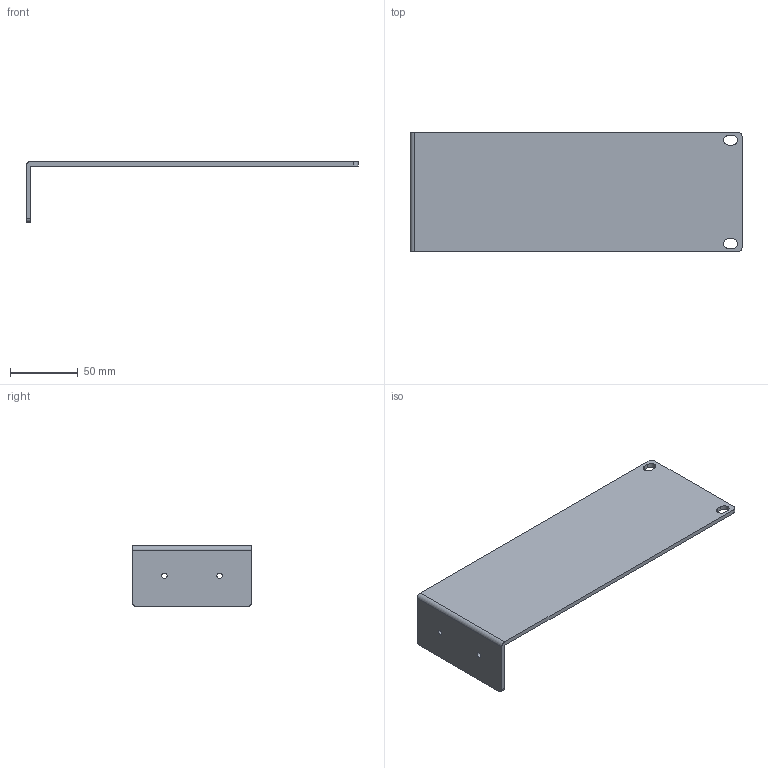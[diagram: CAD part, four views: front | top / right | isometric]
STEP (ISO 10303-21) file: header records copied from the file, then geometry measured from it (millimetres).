
FILE_DESCRIPTION((''),'2;1');
FILE_NAME('2450-362','2020-05-26T13:25:03',('dking'),('Keithley Instruments'),'CREO PARAMETRIC BY PTC INC, 2019080','CREO PARAMETRIC BY PTC INC, 2019080','');
FILE_SCHEMA(('AUTOMOTIVE_DESIGN { 1 0 10303 214 1 1 1 1 }'));
Length unit declared in the file: inch
Products named in the file (1): 2450-362
Bounding box: 244.47 x 88.14 x 44.58 mm (x, y, z)
Volume: 79307 mm3; surface area: 52573 mm2
Topology: 1 solids, 1 shells, 25 faces, 69 edges, 46 vertices
Faces by surface type: cylinder 13, plane 12
Entity records: 1548 total; most frequent: COLOUR_RGB 190, DIRECTION 182, CARTESIAN_POINT 169, ORIENTED_EDGE 138, EDGE_CURVE 69, AXIS2_PLACEMENT_3D 62, PROPERTY_DEFINITION 56, VECTOR 55
